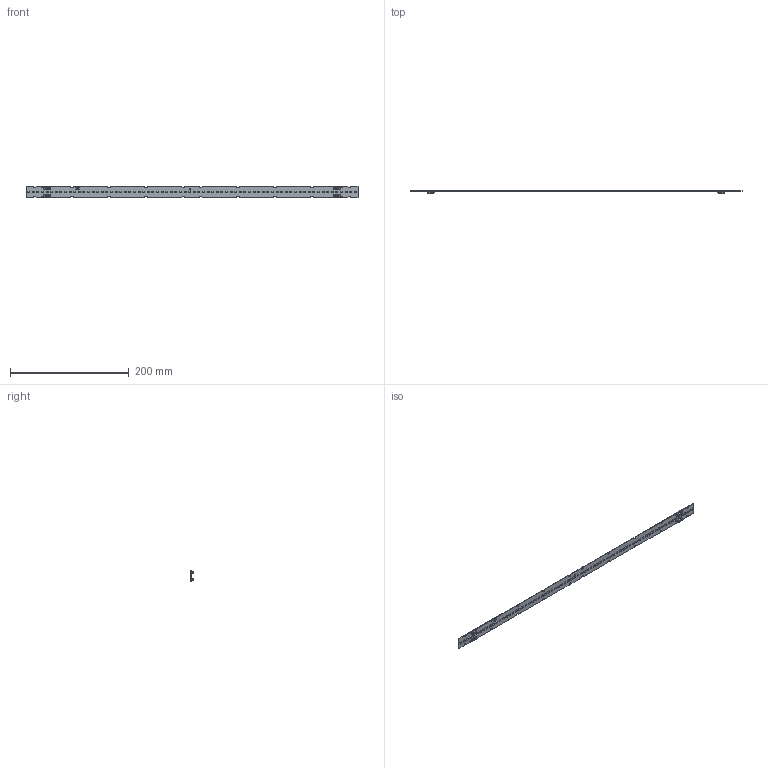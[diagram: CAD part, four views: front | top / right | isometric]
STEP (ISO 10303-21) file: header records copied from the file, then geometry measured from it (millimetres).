
FILE_DESCRIPTION(/* description */ ('Unknown'),/* implementation_level */ '2;1');
FILE_NAME(/* name */ 'LinLED 560x20mm 2200lm(72x2835) 4C sh-000 2019-11-13',/* time_stamp */ '2019-11-13T15:55:04+01:00',/* author */ ('KuczyĹ„ski R.'),/* organization */ ('MST'),/* preprocessor_version */ 'ST-DEVELOPER v16.7',/* originating_system */ 'DEX',/* authorisation */ $);
FILE_SCHEMA (('AUTOMOTIVE_DESIGN {1 0 10303 214 3 1 1}'));
Products named in the file (1): LinLED 560x20mm 2200lm(72x2835) 4C sh-000 2019-11-13
Bounding box: 560 x 4.5 x 20 mm (x, y, z)
Volume: 12075.7 mm3; surface area: 24926.9 mm2
Topology: 5 solids, 5 shells, 2310 faces, 5991 edges, 3853 vertices
Faces by surface type: plane 1696, cylinder 273, bspline 229, cone 60, sphere 32, torus 20
Full cylindrical faces by diameter (mm): 1.5 x1
Entity records: 85040 total; most frequent: CARTESIAN_POINT 21334, ORIENTED_EDGE 11884, DIRECTION 9810, EDGE_CURVE 5942, LINE 4642, VECTOR 4642, VERTEX_POINT 3841, AXIS2_PLACEMENT_3D 2584
